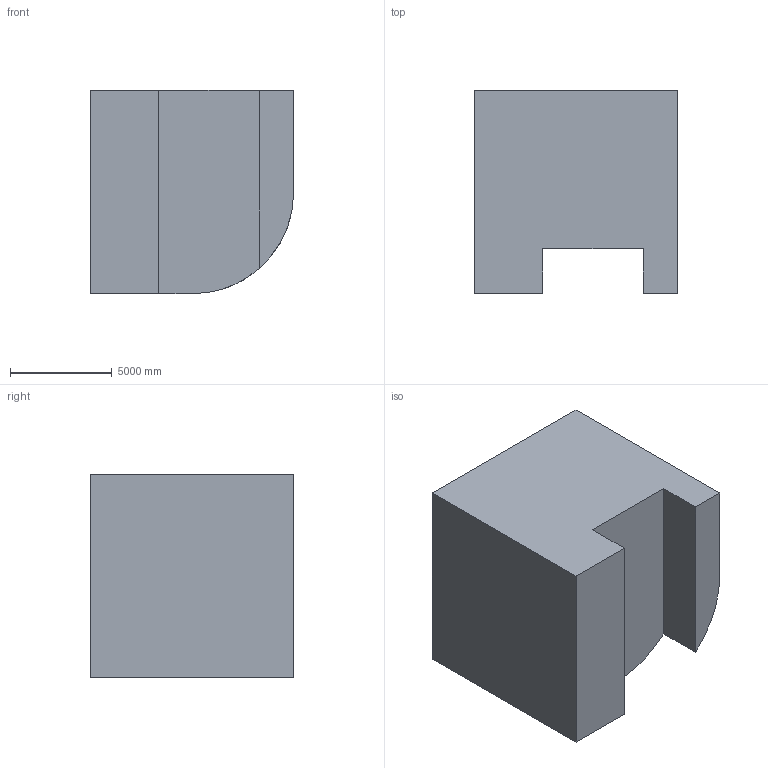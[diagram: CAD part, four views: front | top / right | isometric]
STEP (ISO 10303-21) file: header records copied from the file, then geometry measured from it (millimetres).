
FILE_DESCRIPTION (( 'STEP AP203' ), '1' );
FILE_NAME ('1077.STEP', '2022-08-18T12:40:08', ( 'user' ), ( '' ), 'SwSTEP 2.0', 'SolidWorks 2021', '' );
FILE_SCHEMA (( 'CONFIG_CONTROL_DESIGN' ));
Length unit declared in the file: centimetre
Products named in the file (1): 1077
Bounding box: 10000 x 10000 x 10000 mm (x, y, z)
Volume: 839962643505.5 mm3; surface area: 586849534.6 mm2
Topology: 1 solids, 1 shells, 11 faces, 27 edges, 18 vertices
Faces by surface type: plane 10, cylinder 1
Entity records: 401 total; most frequent: CARTESIAN_POINT 57, ORIENTED_EDGE 54, DIRECTION 54, EDGE_CURVE 27, LINE 24, VECTOR 24, VERTEX_POINT 18, AXIS2_PLACEMENT_3D 15
